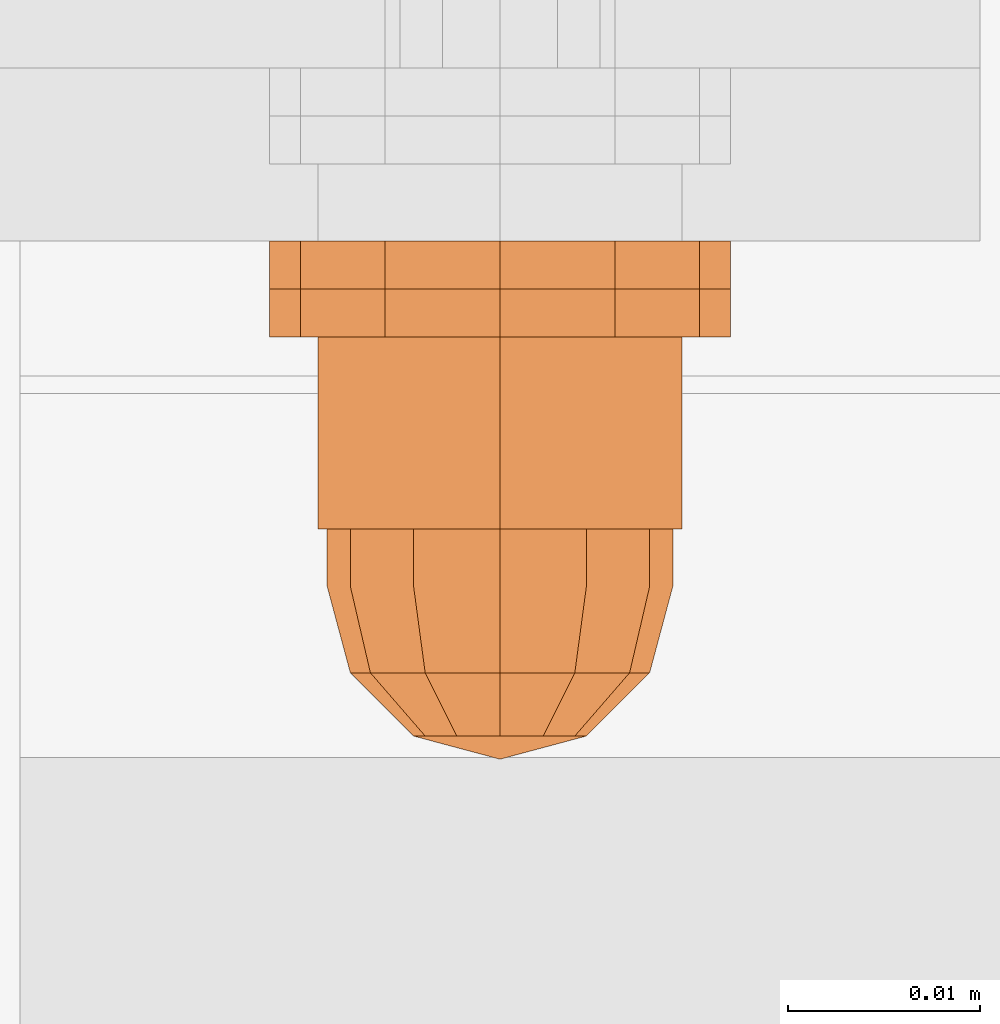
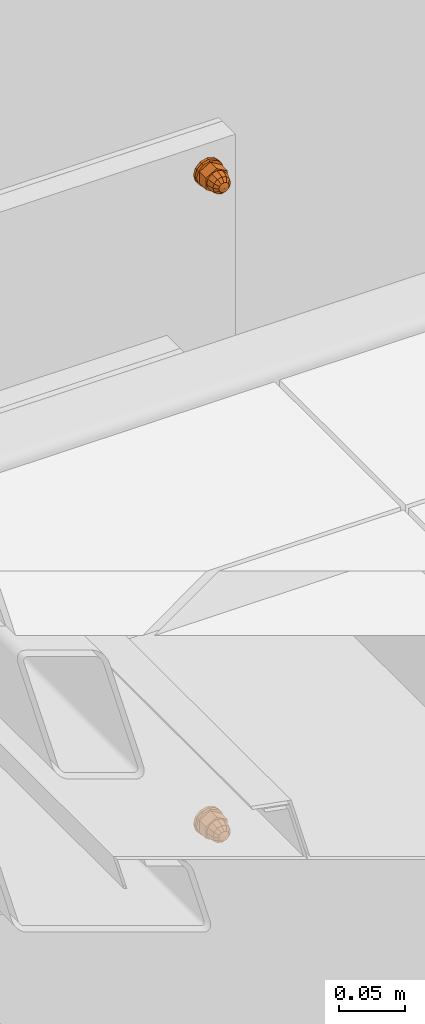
# One storey, part 141 of 162: 6 proxies.
"""IFC2X3 building model written with IfcOpenShell, lengths in millimetres."""

import ifcopenshell
import ifcopenshell.guid

model = None  # the IFC model being written
_history = None  # IfcOwnerHistory: only IFC2X3 demands one
_inside = {}  # id of a spatial element -> (the spatial element, [elements in it])
_under = {}  # id of a project, library or spatial element -> (it, [spatial elements below it])
_declared = {}  # id of a project -> (the project, [libraries it declares])
_typed = {}  # id of a type object -> (the type object, [elements of that type])
_made_of = {}  # id of a material, layer set ... -> (it, [elements and type objects made of it])


def new_model(schema):
    """Start an empty IFC model of exactly this schema.

    Asked for "IFC4X3", IfcOpenShell would pick the latest addendum, in which some entities
    have other attributes; the version numbers below select the first issue.
    IFC2X3 requires an IfcOwnerHistory on every rooted entity: one is made here for all.
    """
    global model, _history
    if schema == "IFC4X3":
        model = ifcopenshell.file(schema_version=(4, 3, 0, 0))
    else:
        model = ifcopenshell.file(schema=schema)
    _inside.clear()
    _under.clear()
    _declared.clear()
    _typed.clear()
    _made_of.clear()
    _history = None
    if model.schema == "IFC2X3":
        org = make("IfcOrganization", Name="unknown")
        user = make(
            "IfcPersonAndOrganization",
            ThePerson=make("IfcPerson", FamilyName="unknown"),
            TheOrganization=org,
        )
        app = make(
            "IfcApplication",
            ApplicationDeveloper=org,
            Version="unknown",
            ApplicationFullName="unknown",
            ApplicationIdentifier="unknown",
        )
        _history = make(
            "IfcOwnerHistory",
            OwningUser=user,
            OwningApplication=app,
            ChangeAction="ADDED",
            CreationDate=0,
        )
    return model


def make(cls, **values):
    """One entity of the class cls with the attributes given. An attribute that is None is left unset."""
    return model.create_entity(
        cls, **{name: value for name, value in values.items() if value is not None}
    )


def entity(cls, *values):
    """Any entity or typed value of the class cls, its attributes in the order of the schema. None: left unset."""
    e = model.create_entity(cls)
    for i, value in enumerate(values):
        if value is not None:
            e[i] = value
    return e


def rooted(cls, **values):
    """An entity with a GlobalId (a new one), such as an element, a storey or a relation."""
    return make(cls, GlobalId=ifcopenshell.guid.new(), OwnerHistory=_history, **values)


def si_unit(unit_type, name, prefix=None):
    """IfcSIUnit, for example si_unit("LENGTHUNIT", "METRE", prefix="MILLI")."""
    return make("IfcSIUnit", UnitType=unit_type, Prefix=prefix, Name=name)


def converted_unit(unit_type, name, factor, base, dimensions=None, offset=None):
    """IfcConversionBasedUnit, such as the inch: factor (a typed value) times the base unit."""
    return make(
        "IfcConversionBasedUnit"
        if offset is None
        else "IfcConversionBasedUnitWithOffset",
        ConversionOffset=offset,
        Dimensions=None
        if dimensions is None
        else entity("IfcDimensionalExponents", *dimensions),
        UnitType=unit_type,
        Name=name,
        ConversionFactor=make(
            "IfcMeasureWithUnit", ValueComponent=factor, UnitComponent=base
        ),
    )


def assignment(units):
    """IfcUnitAssignment: the units of a project."""
    return None if units is None else make("IfcUnitAssignment", Units=units)


def point(xyz):
    """IfcCartesianPoint."""
    return None if xyz is None else make("IfcCartesianPoint", Coordinates=xyz)


def direction(xyz):
    """IfcDirection."""
    return None if xyz is None else make("IfcDirection", DirectionRatios=xyz)


def frame(location, z_axis=None, x_axis=None):
    """IfcAxis2Placement3D, a coordinate frame: its origin and axes. An axis left out is left unset."""
    return make(
        "IfcAxis2Placement3D",
        Location=point(location),
        Axis=direction(z_axis),
        RefDirection=direction(x_axis),
    )


def origin_with_axes():
    """The frame at (0, 0, 0) with the z axis (0, 0, 1) and the x axis (1, 0, 0) written out."""
    return frame((0.0, 0.0, 0.0), z_axis=(0.0, 0.0, 1.0), x_axis=(1.0, 0.0, 0.0))


def place(relative_to, where):
    """IfcLocalPlacement: puts the frame where relative to a parent placement (None: the world)."""
    return make(
        "IfcLocalPlacement", PlacementRelTo=relative_to, RelativePlacement=where
    )


def context(
    kind, dimensions, precision=None, world=None, true_north=None, identifier=None
):
    """IfcGeometricRepresentationContext, for example the 3D "Model" context."""
    return make(
        "IfcGeometricRepresentationContext",
        ContextIdentifier=identifier,
        ContextType=kind,
        CoordinateSpaceDimension=dimensions,
        Precision=precision,
        WorldCoordinateSystem=world,
        TrueNorth=true_north,
    )


def project(units=None, contexts=None):
    """IfcProject with its units and contexts."""
    return rooted(
        "IfcProject",
        Name="project",
        RepresentationContexts=contexts,
        UnitsInContext=assignment(units),
    )


def spatial(cls, under=None, at=None, **own):
    """A site, building, storey or space (cls), placed at a placement, below another one or the project."""
    s = rooted(cls, ObjectPlacement=at, **own)
    if under is not None:
        _under.setdefault(under.id(), (under, []))[1].append(s)
    return s


def faces_of(points, faces, orient=None, outer=None):
    """IfcFace entities. A face is a list of loops; a loop is a list of indices into points, from 0.

    orient and outer hold one flag for each loop. By default every Orientation is true, the
    first loop of a face is its IfcFaceOuterBound and the others are IfcFaceBound.
    """
    made = []
    for i, loops in enumerate(faces):
        bounds = []
        for j, loop in enumerate(loops):
            is_outer = j == 0 if outer is None else outer[i][j]
            bounds.append(
                make(
                    "IfcFaceOuterBound" if is_outer else "IfcFaceBound",
                    Bound=make("IfcPolyLoop", Polygon=[points[k] for k in loop]),
                    Orientation=True if orient is None else orient[i][j],
                )
            )
        made.append(make("IfcFace", Bounds=bounds))
    return made


def faceted_brep(points, faces, orient=None, outer=None, voids=None):
    """IfcFacetedBrep: a solid bounded by flat faces; with voids (closed shells), ...WithVoids."""
    shared = [point(p) for p in points]
    hull = make("IfcClosedShell", CfsFaces=faces_of(shared, faces, orient, outer))
    if voids is None:
        return make("IfcFacetedBrep", Outer=hull)
    return make(
        "IfcFacetedBrepWithVoids",
        Outer=hull,
        Voids=[
            make(cls, CfsFaces=faces_of(shared, fs, o, b)) for cls, fs, o, b in voids
        ],
    )


def shape(context_of_items, identifier, shape_type, items):
    """IfcShapeRepresentation: the items that make up one representation, for example the "Body"."""
    return make(
        "IfcShapeRepresentation",
        ContextOfItems=context_of_items,
        RepresentationIdentifier=identifier,
        RepresentationType=shape_type,
        Items=items,
    )


def material(Name=None, Category=None):
    """IfcMaterial."""
    return make("IfcMaterial", Name=Name, Category=Category)


def made_of(thing, what):
    """Note that an element or type object is made of a material, layer set ...; save() writes the relation."""
    if what is not None:
        _made_of.setdefault(what.id(), (what, []))[1].append(thing)
    return thing


def element(
    cls,
    number,
    at=None,
    inside=None,
    cuts=None,
    type_object=None,
    material=None,
    context=None,
    identifier="Body",
    shape_type=None,
    held_by="IfcProductDefinitionShape",
    body=None,
    shapes=None,
    **own,
):
    """One element of the class cls, such as IfcWall. Its Tag is "e" and its number.

    at: its placement. inside: the storey or other place that contains it. cuts: it is an
    opening in that element (IfcRelVoidsElement). A single representation is given by context,
    identifier, shape_type and body (its items); several are given by shapes. held_by: the class
    of the entity that holds the representations. save() writes the other relations.
    """
    e = rooted(cls, Tag="e%d" % number, ObjectPlacement=at, **own)
    if body is not None:
        shapes = [shape(context, identifier, shape_type, body)]
    if shapes is not None:
        e.Representation = make(held_by, Representations=shapes)
    if inside is not None:
        _inside.setdefault(inside.id(), (inside, []))[1].append(e)
    if cuts is not None:
        rooted(
            "IfcRelVoidsElement", RelatingBuildingElement=cuts, RelatedOpeningElement=e
        )
    if type_object is not None:
        _typed.setdefault(type_object.id(), (type_object, []))[1].append(e)
    return made_of(e, material)


def aggregate(whole, parts):
    """IfcRelAggregates: a whole, such as a stair, and the parts it consists of."""
    return rooted("IfcRelAggregates", RelatingObject=whole, RelatedObjects=parts)


def save(model, path):
    """Write the relations noted so far, then the file.

    IfcRelAggregates (storeys below a building ...), IfcRelContainedInSpatialStructure (elements
    in a storey), IfcRelDefinesByType, IfcRelAssociatesMaterial and IfcRelDeclares: one each for
    every whole, place, type object, material and project.
    """
    for whole, parts in _under.values():
        aggregate(whole, parts)
    for where, things in _inside.values():
        rooted(
            "IfcRelContainedInSpatialStructure",
            RelatedElements=things,
            RelatingStructure=where,
        )
    for kind, things in _typed.values():
        rooted("IfcRelDefinesByType", RelatedObjects=things, RelatingType=kind)
    for what, things in _made_of.values():
        rooted("IfcRelAssociatesMaterial", RelatedObjects=things, RelatingMaterial=what)
    for by, libraries in _declared.values():
        rooted("IfcRelDeclares", RelatingContext=by, RelatedDefinitions=libraries)
    model.write(path)


model = new_model("IFC2X3")

# Units and contexts
model_context = context("Model", 3, precision=1e-09, world=origin_with_axes())
ifc_project = project(units=[si_unit("LENGTHUNIT", "METRE", prefix="MILLI"), si_unit("AREAUNIT", "SQUARE_METRE"), si_unit("VOLUMEUNIT", "CUBIC_METRE"), converted_unit("PLANEANGLEUNIT", "DEGREE", entity("IfcPlaneAngleMeasure", 0.01745329), si_unit("PLANEANGLEUNIT", "RADIAN"), dimensions=[0, 0, 0, 0, 0, 0, 0])], contexts=[model_context])

# Site, building, storey
site_placement = place(None, origin_with_axes())
site = spatial("IfcSite", under=ifc_project, at=site_placement, Name="Hermannstra?e 1a, 60318 Frankfurt", CompositionType="ELEMENT")
building_placement = place(site_placement, origin_with_axes())
building = spatial("IfcBuilding", under=site, at=building_placement, Name="Struktur 1", CompositionType="ELEMENT")
storey_placement = place(building_placement, origin_with_axes())
storey = spatial("IfcBuildingStorey", under=building, at=storey_placement, Name="Default Storey", CompositionType="ELEMENT", Elevation=0.0)

# Proxies
ifc_material_1 = material(Name="Kunststoff")
proxy_1_placement = place(None, origin_with_axes())
element("IfcBuildingElementProxy", 1, at=proxy_1_placement, inside=storey, material=ifc_material_1, ObjectType="-", context=model_context, shape_type="Brep", body=[
    faceted_brep([(2938.702376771, 2708.110081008, 15355.999), (2938.702376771, 2710.610081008, 15355.999), (2940.310071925, 2710.610081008, 15361.999), (2940.310071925, 2708.110081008, 15361.999), (2934.310071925, 2710.610081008, 15351.606695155), (2928.310071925, 2710.610081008, 15349.999), (2922.310071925, 2710.610081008, 15351.606695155), (2917.91776708, 2710.610081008, 15355.999), (2916.310071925, 2710.610081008, 15361.999), (2917.91776708, 2710.610081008, 15367.999), (2922.310071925, 2710.610081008, 15372.391304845), (2928.310071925, 2710.610081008, 15373.999), (2934.310071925, 2710.610081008, 15372.391304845), (2938.702376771, 2710.610081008, 15367.999), (2931.560071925, 2710.610081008, 15356.369834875), (2933.93923705, 2710.610081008, 15358.749), (2934.810071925, 2710.610081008, 15361.999), (2933.93923705, 2710.610081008, 15365.249), (2931.560071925, 2710.610081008, 15367.628165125), (2928.310071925, 2710.610081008, 15368.499), (2925.060071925, 2710.610081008, 15367.628165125), (2922.680906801, 2710.610081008, 15365.249), (2921.810071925, 2710.610081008, 15361.999), (2922.680906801, 2710.610081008, 15358.749), (2925.060071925, 2710.610081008, 15356.369834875), (2928.310071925, 2710.610081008, 15355.499), (2934.810071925, 2708.110081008, 15361.999), (2933.93923705, 2708.110081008, 15358.749), (2934.310071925, 2708.110081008, 15351.606695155), (2938.702376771, 2708.110081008, 15367.999), (2934.310071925, 2708.110081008, 15372.391304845), (2928.310071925, 2708.110081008, 15373.999), (2922.310071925, 2708.110081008, 15372.391304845), (2917.91776708, 2708.110081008, 15367.999), (2916.310071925, 2708.110081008, 15361.999), (2917.91776708, 2708.110081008, 15355.999), (2922.310071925, 2708.110081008, 15351.606695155), (2928.310071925, 2708.110081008, 15349.999), (2931.560071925, 2708.110081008, 15356.369834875), (2928.310071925, 2708.110081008, 15355.499), (2925.060071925, 2708.110081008, 15356.369834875), (2922.680906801, 2708.110081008, 15358.749), (2921.810071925, 2708.110081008, 15361.999), (2922.680906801, 2708.110081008, 15365.249), (2925.060071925, 2708.110081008, 15367.628165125), (2928.310071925, 2708.110081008, 15368.499), (2931.560071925, 2708.110081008, 15367.628165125), (2933.93923705, 2708.110081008, 15365.249)], [[[0, 1, 2, 3]], [[1, 4, 5, 6, 7, 8, 9, 10, 11, 12, 13, 2], [14, 15, 16, 17, 18, 19, 20, 21, 22, 23, 24, 25]], [[26, 16, 15, 27]], [[28, 0, 3, 29, 30, 31, 32, 33, 34, 35, 36, 37], [26, 27, 38, 39, 40, 41, 42, 43, 44, 45, 46, 47]], [[1, 0, 28, 4]], [[16, 26, 47, 17]], [[3, 2, 13, 29]], [[27, 15, 14, 38]], [[4, 28, 37, 5]], [[17, 47, 46, 18]], [[29, 13, 12, 30]], [[38, 14, 25, 39]], [[18, 46, 45, 19]], [[5, 37, 36, 6]], [[39, 25, 24, 40]], [[30, 12, 11, 31]], [[19, 45, 44, 20]], [[6, 36, 35, 7]], [[40, 24, 23, 41]], [[31, 11, 10, 32]], [[20, 44, 43, 21]], [[7, 35, 34, 8]], [[41, 23, 22, 42]], [[32, 10, 9, 33]], [[21, 43, 42, 22]], [[8, 34, 33, 9]]]),
])
ifc_material_2 = material(Name="A4")
proxy_2_placement = place(None, origin_with_axes())
element("IfcBuildingElementProxy", 2, at=proxy_2_placement, inside=storey, material=ifc_material_2, ObjectType="-", context=model_context, shape_type="Brep", body=[
    faceted_brep([(2917.91776708, 2705.610081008, 15355.999), (2917.91776708, 2708.110081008, 15355.999), (2922.310071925, 2708.110081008, 15351.606695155), (2922.310071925, 2705.610081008, 15351.606695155), (2928.310071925, 2705.610081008, 15349.999), (2934.310071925, 2705.610081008, 15351.606695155), (2938.702376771, 2705.610081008, 15355.999), (2940.310071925, 2705.610081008, 15361.999), (2938.702376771, 2705.610081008, 15367.999), (2934.310071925, 2705.610081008, 15372.391304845), (2928.310071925, 2705.610081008, 15373.999), (2922.310071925, 2705.610081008, 15372.391304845), (2917.91776708, 2705.610081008, 15367.999), (2916.310071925, 2705.610081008, 15361.999), (2931.560071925, 2705.610081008, 15356.369834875), (2928.310071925, 2705.610081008, 15355.499), (2925.060071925, 2705.610081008, 15356.369834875), (2922.680906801, 2705.610081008, 15358.749), (2921.810071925, 2705.610081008, 15361.999), (2922.680906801, 2705.610081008, 15365.249), (2925.060071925, 2705.610081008, 15367.628165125), (2928.310071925, 2705.610081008, 15368.499), (2931.560071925, 2705.610081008, 15367.628165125), (2933.93923705, 2705.610081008, 15365.249), (2934.810071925, 2705.610081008, 15361.999), (2933.93923705, 2705.610081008, 15358.749), (2916.310071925, 2708.110081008, 15361.999), (2917.91776708, 2708.110081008, 15367.999), (2922.310071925, 2708.110081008, 15372.391304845), (2928.310071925, 2708.110081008, 15373.999), (2934.310071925, 2708.110081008, 15372.391304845), (2938.702376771, 2708.110081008, 15367.999), (2940.310071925, 2708.110081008, 15361.999), (2938.702376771, 2708.110081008, 15355.999), (2934.310071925, 2708.110081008, 15351.606695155), (2928.310071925, 2708.110081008, 15349.999), (2921.810071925, 2708.110081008, 15361.999), (2922.680906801, 2708.110081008, 15358.749), (2925.060071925, 2708.110081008, 15356.369834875), (2928.310071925, 2708.110081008, 15355.499), (2931.560071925, 2708.110081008, 15356.369834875), (2933.93923705, 2708.110081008, 15358.749), (2934.810071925, 2708.110081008, 15361.999), (2933.93923705, 2708.110081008, 15365.249), (2931.560071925, 2708.110081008, 15367.628165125), (2928.310071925, 2708.110081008, 15368.499), (2925.060071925, 2708.110081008, 15367.628165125), (2922.680906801, 2708.110081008, 15365.249)], [[[0, 1, 2, 3]], [[3, 4, 5, 6, 7, 8, 9, 10, 11, 12, 13, 0], [14, 15, 16, 17, 18, 19, 20, 21, 22, 23, 24, 25]], [[1, 26, 27, 28, 29, 30, 31, 32, 33, 34, 35, 2], [36, 37, 38, 39, 40, 41, 42, 43, 44, 45, 46, 47]], [[37, 17, 16, 38]], [[1, 0, 13, 26]], [[17, 37, 36, 18]], [[38, 16, 15, 39]], [[3, 2, 35, 4]], [[26, 13, 12, 27]], [[18, 36, 47, 19]], [[39, 15, 14, 40]], [[4, 35, 34, 5]], [[27, 12, 11, 28]], [[19, 47, 46, 20]], [[40, 14, 25, 41]], [[5, 34, 33, 6]], [[24, 42, 41, 25]], [[28, 11, 10, 29]], [[20, 46, 45, 21]], [[23, 43, 42, 24]], [[6, 33, 32, 7]], [[44, 22, 21, 45]], [[43, 23, 22, 44]], [[29, 10, 9, 30]], [[7, 32, 31, 8]], [[30, 9, 8, 31]]]),
])
proxy_3_placement = place(None, origin_with_axes())
element("IfcBuildingElementProxy", 3, at=proxy_3_placement, inside=storey, material=ifc_material_2, ObjectType="-", context=model_context, shape_type="Brep", body=[
    faceted_brep([(2934.310071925, 2705.610081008, 15361.999), (2934.310071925, 2695.610081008, 15361.999), (2933.506224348, 2695.610081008, 15364.999), (2933.506224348, 2705.610081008, 15364.999), (2931.310071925, 2695.610081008, 15367.195152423), (2931.310071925, 2705.610081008, 15367.195152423), (2933.506224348, 2705.610081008, 15358.999), (2933.506224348, 2695.610081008, 15358.999), (2937.789941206, 2705.610081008, 15356.525794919), (2928.310071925, 2705.610081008, 15351.052589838), (2918.830202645, 2705.610081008, 15356.525794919), (2918.830202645, 2705.610081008, 15367.472205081), (2928.310071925, 2705.610081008, 15372.945410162), (2937.789941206, 2705.610081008, 15367.472205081), (2931.310071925, 2705.610081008, 15356.802847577), (2928.310071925, 2705.610081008, 15367.999), (2925.310071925, 2705.610081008, 15367.195152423), (2923.113919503, 2705.610081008, 15364.999), (2922.310071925, 2705.610081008, 15361.999), (2923.113919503, 2705.610081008, 15358.999), (2925.310071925, 2705.610081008, 15356.802847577), (2928.310071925, 2705.610081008, 15355.999), (2928.310071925, 2695.610081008, 15351.052589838), (2937.789941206, 2695.610081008, 15356.525794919), (2937.789941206, 2695.610081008, 15367.472205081), (2928.310071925, 2695.610081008, 15372.945410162), (2918.830202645, 2695.610081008, 15367.472205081), (2918.830202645, 2695.610081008, 15356.525794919), (2931.310071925, 2695.610081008, 15356.802847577), (2928.310071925, 2695.610081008, 15355.999), (2925.310071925, 2695.610081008, 15356.802847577), (2923.113919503, 2695.610081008, 15358.999), (2922.310071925, 2695.610081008, 15361.999), (2923.113919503, 2695.610081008, 15364.999), (2925.310071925, 2695.610081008, 15367.195152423), (2928.310071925, 2695.610081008, 15367.999)], [[[0, 1, 2, 3]], [[3, 2, 4, 5]], [[1, 0, 6, 7]], [[8, 9, 10, 11, 12, 13], [14, 6, 0, 3, 5, 15, 16, 17, 18, 19, 20, 21]], [[22, 23, 24, 25, 26, 27], [1, 7, 28, 29, 30, 31, 32, 33, 34, 35, 4, 2]], [[7, 6, 14, 28]], [[24, 23, 8, 13]], [[5, 4, 35, 15]], [[13, 12, 25, 24]], [[28, 14, 21, 29]], [[23, 22, 9, 8]], [[15, 35, 34, 16]], [[12, 11, 26, 25]], [[29, 21, 20, 30]], [[22, 27, 10, 9]], [[16, 34, 33, 17]], [[27, 26, 11, 10]], [[30, 20, 19, 31]], [[17, 33, 32, 18]], [[31, 19, 18, 32]]]),
    faceted_brep([(2928.310071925, 2695.610081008, 15352.999), (2928.310071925, 2692.610081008, 15352.999), (2923.810071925, 2692.610081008, 15354.204771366), (2923.810071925, 2695.610081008, 15354.204771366), (2932.810071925, 2695.610081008, 15354.204771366), (2932.810071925, 2692.610081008, 15354.204771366), (2936.104300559, 2692.610081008, 15366.499), (2932.810071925, 2692.610081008, 15369.793228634), (2928.310071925, 2692.610081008, 15370.999), (2923.810071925, 2692.610081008, 15369.793228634), (2920.515843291, 2692.610081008, 15366.499), (2919.310071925, 2692.610081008, 15361.999), (2920.515843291, 2692.610081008, 15357.499), (2936.104300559, 2692.610081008, 15357.499), (2937.310071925, 2692.610081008, 15361.999), (2920.515843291, 2695.610081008, 15366.499), (2923.810071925, 2695.610081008, 15369.793228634), (2928.310071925, 2695.610081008, 15370.999), (2932.810071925, 2695.610081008, 15369.793228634), (2936.104300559, 2695.610081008, 15366.499), (2937.310071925, 2695.610081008, 15361.999), (2936.104300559, 2695.610081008, 15357.499), (2920.515843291, 2695.610081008, 15357.499), (2919.310071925, 2695.610081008, 15361.999)], [[[0, 1, 2, 3]], [[1, 0, 4, 5]], [[6, 7, 8, 9, 10, 11, 12, 2, 1, 5, 13, 14]], [[15, 16, 17, 18, 19, 20, 21, 4, 0, 3, 22, 23]], [[3, 2, 12, 22]], [[5, 4, 21, 13]], [[22, 12, 11, 23]], [[13, 21, 20, 14]], [[7, 18, 17, 8]], [[19, 6, 14, 20]], [[18, 7, 6, 19]], [[23, 11, 10, 15]], [[8, 17, 16, 9]], [[15, 10, 9, 16]]]),
    faceted_brep([(2936.104300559, 2692.610081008, 15357.499), (2935.060071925, 2688.110081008, 15358.101885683), (2932.207186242, 2688.110081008, 15355.249), (2932.810071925, 2692.610081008, 15354.204771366), (2920.515843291, 2692.610081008, 15366.499), (2923.810071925, 2692.610081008, 15369.793228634), (2928.310071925, 2692.610081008, 15370.999), (2932.810071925, 2692.610081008, 15369.793228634), (2936.104300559, 2692.610081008, 15366.499), (2937.310071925, 2692.610081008, 15361.999), (2928.310071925, 2692.610081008, 15352.999), (2923.810071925, 2692.610081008, 15354.204771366), (2920.515843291, 2692.610081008, 15357.499), (2919.310071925, 2692.610081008, 15361.999), (2928.310071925, 2688.110081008, 15354.204771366), (2936.104300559, 2688.110081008, 15361.999), (2932.810071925, 2684.815852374, 15361.999), (2932.207186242, 2684.815852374, 15359.749), (2924.412957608, 2688.110081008, 15355.249), (2930.560071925, 2684.815852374, 15358.101885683), (2935.060071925, 2688.110081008, 15365.896114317), (2932.207186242, 2684.815852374, 15364.249), (2928.310071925, 2684.815852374, 15357.499), (2928.310071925, 2683.610081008, 15361.999), (2932.207186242, 2688.110081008, 15368.749), (2930.560071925, 2684.815852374, 15365.896114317), (2928.310071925, 2688.110081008, 15369.793228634), (2921.560071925, 2688.110081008, 15358.101885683), (2926.060071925, 2684.815852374, 15358.101885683), (2928.310071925, 2684.815852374, 15366.499), (2924.412957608, 2688.110081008, 15368.749), (2926.060071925, 2684.815852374, 15365.896114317), (2920.515843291, 2688.110081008, 15361.999), (2924.412957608, 2684.815852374, 15359.749), (2921.560071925, 2688.110081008, 15365.896114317), (2924.412957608, 2684.815852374, 15364.249), (2923.810071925, 2684.815852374, 15361.999)], [[[0, 1, 2, 3]], [[4, 5, 6, 7, 8, 9, 0, 3, 10, 11, 12, 13]], [[3, 2, 14, 10]], [[15, 16, 17, 1]], [[1, 0, 9, 15]], [[10, 14, 18, 11]], [[1, 17, 19, 2]], [[16, 15, 20, 21]], [[2, 19, 22, 14]], [[23, 17, 16]], [[24, 25, 21, 20]], [[23, 16, 21]], [[24, 7, 6, 26]], [[20, 8, 7, 24]], [[15, 9, 8, 20]], [[11, 18, 27, 12]], [[14, 22, 28, 18]], [[23, 19, 17]], [[26, 29, 25, 24]], [[23, 21, 25]], [[23, 22, 19]], [[26, 6, 5, 30]], [[29, 26, 30, 31]], [[23, 25, 29]], [[12, 27, 32, 13]], [[18, 28, 33, 27]], [[23, 28, 22]], [[23, 29, 31]], [[23, 33, 28]], [[30, 5, 4, 34]], [[31, 30, 34, 35]], [[23, 31, 35]], [[13, 32, 34, 4]], [[27, 33, 36, 32]], [[23, 36, 33]], [[23, 35, 36]], [[35, 34, 32, 36]]]),
])
proxy_4_placement = place(None, origin_with_axes())
element("IfcBuildingElementProxy", 4, at=proxy_4_placement, inside=storey, material=ifc_material_2, ObjectType="-", context=model_context, shape_type="Brep", body=[
    faceted_brep([(2934.310071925, 2695.610081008, 14761.999), (2934.310071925, 2705.610081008, 14761.999), (2933.506224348, 2705.610081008, 14758.999), (2933.506224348, 2695.610081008, 14758.999), (2931.310071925, 2705.610081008, 14756.802847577), (2931.310071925, 2695.610081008, 14756.802847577), (2933.506224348, 2695.610081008, 14764.999), (2933.506224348, 2705.610081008, 14764.999), (2937.789941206, 2705.610081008, 14767.472205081), (2937.789941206, 2705.610081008, 14756.525794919), (2928.310071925, 2705.610081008, 14751.052589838), (2918.830202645, 2705.610081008, 14756.525794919), (2918.830202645, 2705.610081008, 14767.472205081), (2928.310071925, 2705.610081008, 14772.945410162), (2931.310071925, 2705.610081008, 14767.195152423), (2928.310071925, 2705.610081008, 14767.999), (2925.310071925, 2705.610081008, 14767.195152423), (2923.113919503, 2705.610081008, 14764.999), (2922.310071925, 2705.610081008, 14761.999), (2923.113919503, 2705.610081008, 14758.999), (2925.310071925, 2705.610081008, 14756.802847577), (2928.310071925, 2705.610081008, 14755.999), (2937.789941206, 2695.610081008, 14767.472205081), (2928.310071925, 2695.610081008, 14772.945410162), (2918.830202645, 2695.610081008, 14767.472205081), (2918.830202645, 2695.610081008, 14756.525794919), (2928.310071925, 2695.610081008, 14751.052589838), (2937.789941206, 2695.610081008, 14756.525794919), (2931.310071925, 2695.610081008, 14767.195152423), (2928.310071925, 2695.610081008, 14755.999), (2928.310071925, 2695.610081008, 14767.999), (2925.310071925, 2695.610081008, 14756.802847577), (2925.310071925, 2695.610081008, 14767.195152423), (2923.113919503, 2695.610081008, 14758.999), (2923.113919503, 2695.610081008, 14764.999), (2922.310071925, 2695.610081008, 14761.999)], [[[0, 1, 2, 3]], [[3, 2, 4, 5]], [[1, 0, 6, 7]], [[8, 9, 10, 11, 12, 13], [7, 14, 15, 16, 17, 18, 19, 20, 21, 4, 2, 1]], [[22, 23, 24, 25, 26, 27]], [[7, 6, 28, 14]], [[22, 27, 9, 8]], [[5, 4, 21, 29]], [[10, 9, 27, 26]], [[14, 28, 30, 15]], [[23, 22, 8, 13]], [[29, 21, 20, 31]], [[11, 10, 26, 25]], [[15, 30, 32, 16]], [[24, 23, 13, 12]], [[31, 20, 19, 33]], [[25, 24, 12, 11]], [[16, 32, 34, 17]], [[33, 19, 18, 35]], [[17, 34, 35, 18]]]),
    faceted_brep([(2928.310071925, 2692.610081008, 14770.999), (2928.310071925, 2695.610081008, 14770.999), (2923.810071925, 2695.610081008, 14769.793228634), (2923.810071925, 2692.610081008, 14769.793228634), (2932.810071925, 2692.610081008, 14769.793228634), (2932.810071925, 2695.610081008, 14769.793228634), (2932.810071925, 2692.610081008, 14754.204771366), (2936.104300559, 2692.610081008, 14757.499), (2937.310071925, 2692.610081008, 14761.999), (2936.104300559, 2692.610081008, 14766.499), (2920.515843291, 2692.610081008, 14766.499), (2919.310071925, 2692.610081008, 14761.999), (2920.515843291, 2692.610081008, 14757.499), (2923.810071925, 2692.610081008, 14754.204771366), (2928.310071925, 2692.610081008, 14752.999), (2923.810071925, 2695.610081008, 14754.204771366), (2920.515843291, 2695.610081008, 14757.499), (2919.310071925, 2695.610081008, 14761.999), (2920.515843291, 2695.610081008, 14766.499), (2936.104300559, 2695.610081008, 14766.499), (2937.310071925, 2695.610081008, 14761.999), (2936.104300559, 2695.610081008, 14757.499), (2932.810071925, 2695.610081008, 14754.204771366), (2928.310071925, 2695.610081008, 14752.999)], [[[0, 1, 2, 3]], [[1, 0, 4, 5]], [[6, 7, 8, 9, 4, 0, 3, 10, 11, 12, 13, 14]], [[15, 16, 17, 18, 2, 1, 5, 19, 20, 21, 22, 23]], [[3, 2, 18, 10]], [[5, 4, 9, 19]], [[10, 18, 17, 11]], [[19, 9, 8, 20]], [[22, 6, 14, 23]], [[7, 21, 20, 8]], [[6, 22, 21, 7]], [[11, 17, 16, 12]], [[23, 14, 13, 15]], [[12, 16, 15, 13]]]),
    faceted_brep([(2935.060071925, 2688.110081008, 14765.896114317), (2936.104300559, 2692.610081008, 14766.499), (2932.810071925, 2692.610081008, 14769.793228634), (2932.207186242, 2688.110081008, 14768.749), (2923.810071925, 2692.610081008, 14754.204771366), (2920.515843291, 2692.610081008, 14757.499), (2919.310071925, 2692.610081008, 14761.999), (2920.515843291, 2692.610081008, 14766.499), (2923.810071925, 2692.610081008, 14769.793228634), (2928.310071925, 2692.610081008, 14770.999), (2937.310071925, 2692.610081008, 14761.999), (2936.104300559, 2692.610081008, 14757.499), (2932.810071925, 2692.610081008, 14754.204771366), (2928.310071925, 2692.610081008, 14752.999), (2928.310071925, 2688.110081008, 14769.793228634), (2932.810071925, 2684.815852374, 14761.999), (2936.104300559, 2688.110081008, 14761.999), (2932.207186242, 2684.815852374, 14764.249), (2924.412957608, 2688.110081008, 14768.749), (2930.560071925, 2684.815852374, 14765.896114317), (2932.207186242, 2684.815852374, 14759.749), (2935.060071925, 2688.110081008, 14758.101885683), (2928.310071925, 2684.815852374, 14766.499), (2928.310071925, 2683.610081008, 14761.999), (2930.560071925, 2684.815852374, 14758.101885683), (2932.207186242, 2688.110081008, 14755.249), (2928.310071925, 2688.110081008, 14754.204771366), (2921.560071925, 2688.110081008, 14765.896114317), (2926.060071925, 2684.815852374, 14765.896114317), (2928.310071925, 2684.815852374, 14757.499), (2924.412957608, 2688.110081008, 14755.249), (2926.060071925, 2684.815852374, 14758.101885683), (2920.515843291, 2688.110081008, 14761.999), (2924.412957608, 2684.815852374, 14764.249), (2921.560071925, 2688.110081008, 14758.101885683), (2924.412957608, 2684.815852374, 14759.749), (2923.810071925, 2684.815852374, 14761.999)], [[[0, 1, 2, 3]], [[4, 5, 6, 7, 8, 9, 2, 1, 10, 11, 12, 13]], [[3, 2, 9, 14]], [[15, 16, 0, 17]], [[1, 0, 16, 10]], [[14, 9, 8, 18]], [[17, 0, 3, 19]], [[16, 15, 20, 21]], [[19, 3, 14, 22]], [[17, 23, 15]], [[24, 25, 21, 20]], [[15, 23, 20]], [[12, 25, 26, 13]], [[11, 21, 25, 12]], [[10, 16, 21, 11]], [[18, 8, 7, 27]], [[22, 14, 18, 28]], [[19, 23, 17]], [[29, 26, 25, 24]], [[20, 23, 24]], [[22, 23, 19]], [[13, 26, 30, 4]], [[26, 29, 31, 30]], [[24, 23, 29]], [[27, 7, 6, 32]], [[28, 18, 27, 33]], [[28, 23, 22]], [[29, 23, 31]], [[33, 23, 28]], [[4, 30, 34, 5]], [[30, 31, 35, 34]], [[31, 23, 35]], [[32, 6, 5, 34]], [[33, 27, 32, 36]], [[36, 23, 33]], [[35, 23, 36]], [[34, 35, 36, 32]]]),
])
proxy_5_placement = place(None, origin_with_axes())
element("IfcBuildingElementProxy", 5, at=proxy_5_placement, inside=storey, material=ifc_material_2, ObjectType="-", context=model_context, shape_type="Brep", body=[
    faceted_brep([(2917.91776708, 2708.110081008, 14767.999), (2917.91776708, 2705.610081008, 14767.999), (2922.310071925, 2705.610081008, 14772.391304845), (2922.310071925, 2708.110081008, 14772.391304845), (2916.310071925, 2705.610081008, 14761.999), (2917.91776708, 2705.610081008, 14755.999), (2922.310071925, 2705.610081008, 14751.606695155), (2928.310071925, 2705.610081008, 14749.999), (2934.310071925, 2705.610081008, 14751.606695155), (2938.702376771, 2705.610081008, 14755.999), (2940.310071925, 2705.610081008, 14761.999), (2938.702376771, 2705.610081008, 14767.999), (2934.310071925, 2705.610081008, 14772.391304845), (2928.310071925, 2705.610081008, 14773.999), (2928.310071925, 2705.610081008, 14768.499), (2931.560071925, 2705.610081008, 14767.628165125), (2933.93923705, 2705.610081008, 14765.249), (2934.810071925, 2705.610081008, 14761.999), (2933.93923705, 2705.610081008, 14758.749), (2931.560071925, 2705.610081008, 14756.369834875), (2928.310071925, 2705.610081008, 14755.499), (2925.060071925, 2705.610081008, 14756.369834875), (2922.680906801, 2705.610081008, 14758.749), (2921.810071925, 2705.610081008, 14761.999), (2922.680906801, 2705.610081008, 14765.249), (2925.060071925, 2705.610081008, 14767.628165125), (2922.680906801, 2708.110081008, 14765.249), (2921.810071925, 2708.110081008, 14761.999), (2922.680906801, 2708.110081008, 14758.749), (2925.060071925, 2708.110081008, 14756.369834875), (2928.310071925, 2708.110081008, 14755.499), (2931.560071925, 2708.110081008, 14756.369834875), (2933.93923705, 2708.110081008, 14758.749), (2934.810071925, 2708.110081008, 14761.999), (2933.93923705, 2708.110081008, 14765.249), (2931.560071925, 2708.110081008, 14767.628165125), (2928.310071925, 2708.110081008, 14768.499), (2925.060071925, 2708.110081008, 14767.628165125), (2916.310071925, 2708.110081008, 14761.999), (2928.310071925, 2708.110081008, 14773.999), (2917.91776708, 2708.110081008, 14755.999), (2934.310071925, 2708.110081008, 14772.391304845), (2922.310071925, 2708.110081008, 14751.606695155), (2938.702376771, 2708.110081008, 14767.999), (2928.310071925, 2708.110081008, 14749.999), (2940.310071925, 2708.110081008, 14761.999), (2934.310071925, 2708.110081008, 14751.606695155), (2938.702376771, 2708.110081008, 14755.999)], [[[0, 1, 2, 3]], [[2, 1, 4, 5, 6, 7, 8, 9, 10, 11, 12, 13], [14, 15, 16, 17, 18, 19, 20, 21, 22, 23, 24, 25]], [[26, 27, 28, 29, 30, 31, 32, 33, 34, 35, 36, 37]], [[24, 26, 37, 25]], [[1, 0, 38, 4]], [[26, 24, 23, 27]], [[25, 37, 36, 14]], [[3, 2, 13, 39]], [[4, 38, 40, 5]], [[27, 23, 22, 28]], [[14, 36, 35, 15]], [[39, 13, 12, 41]], [[5, 40, 42, 6]], [[28, 22, 21, 29]], [[15, 35, 34, 16]], [[41, 12, 11, 43]], [[33, 17, 16, 34]], [[6, 42, 44, 7]], [[29, 21, 20, 30]], [[32, 18, 17, 33]], [[43, 11, 10, 45]], [[19, 31, 30, 20]], [[18, 32, 31, 19]], [[7, 44, 46, 8]], [[45, 10, 9, 47]], [[8, 46, 47, 9]]]),
])
proxy_6_placement = place(None, origin_with_axes())
element("IfcBuildingElementProxy", 6, at=proxy_6_placement, inside=storey, material=ifc_material_1, ObjectType="-", context=model_context, shape_type="Brep", body=[
    faceted_brep([(2938.702376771, 2710.610081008, 14767.999), (2938.702376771, 2708.110081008, 14767.999), (2940.310071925, 2708.110081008, 14761.999), (2940.310071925, 2710.610081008, 14761.999), (2933.93923705, 2710.610081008, 14765.249), (2931.560071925, 2710.610081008, 14767.628165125), (2928.310071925, 2710.610081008, 14768.499), (2925.060071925, 2710.610081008, 14767.628165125), (2922.680906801, 2710.610081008, 14765.249), (2921.810071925, 2710.610081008, 14761.999), (2922.680906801, 2710.610081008, 14758.749), (2925.060071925, 2710.610081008, 14756.369834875), (2928.310071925, 2710.610081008, 14755.499), (2931.560071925, 2710.610081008, 14756.369834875), (2933.93923705, 2710.610081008, 14758.749), (2934.810071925, 2710.610081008, 14761.999), (2934.810071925, 2708.110081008, 14761.999), (2933.93923705, 2708.110081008, 14765.249), (2934.310071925, 2708.110081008, 14772.391304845), (2928.310071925, 2708.110081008, 14773.999), (2922.310071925, 2708.110081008, 14772.391304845), (2917.91776708, 2708.110081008, 14767.999), (2916.310071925, 2708.110081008, 14761.999), (2917.91776708, 2708.110081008, 14755.999), (2922.310071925, 2708.110081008, 14751.606695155), (2928.310071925, 2708.110081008, 14749.999), (2934.310071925, 2708.110081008, 14751.606695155), (2938.702376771, 2708.110081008, 14755.999), (2934.310071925, 2710.610081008, 14772.391304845), (2933.93923705, 2708.110081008, 14758.749), (2938.702376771, 2710.610081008, 14755.999), (2931.560071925, 2708.110081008, 14767.628165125), (2928.310071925, 2710.610081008, 14773.999), (2931.560071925, 2708.110081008, 14756.369834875), (2934.310071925, 2710.610081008, 14751.606695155), (2928.310071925, 2708.110081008, 14768.499), (2928.310071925, 2708.110081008, 14755.499), (2922.310071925, 2710.610081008, 14772.391304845), (2925.060071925, 2708.110081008, 14767.628165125), (2928.310071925, 2710.610081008, 14749.999), (2925.060071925, 2708.110081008, 14756.369834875), (2917.91776708, 2710.610081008, 14767.999), (2922.680906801, 2708.110081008, 14765.249), (2922.310071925, 2710.610081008, 14751.606695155), (2922.680906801, 2708.110081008, 14758.749), (2916.310071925, 2710.610081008, 14761.999), (2921.810071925, 2708.110081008, 14761.999), (2917.91776708, 2710.610081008, 14755.999)], [[[0, 1, 2, 3]], [[4, 5, 6, 7, 8, 9, 10, 11, 12, 13, 14, 15]], [[15, 16, 17, 4]], [[1, 18, 19, 20, 21, 22, 23, 24, 25, 26, 27, 2]], [[1, 0, 28, 18]], [[16, 15, 14, 29]], [[3, 2, 27, 30]], [[4, 17, 31, 5]], [[18, 28, 32, 19]], [[29, 14, 13, 33]], [[30, 27, 26, 34]], [[5, 31, 35, 6]], [[33, 13, 12, 36]], [[19, 32, 37, 20]], [[6, 35, 38, 7]], [[34, 26, 25, 39]], [[36, 12, 11, 40]], [[20, 37, 41, 21]], [[7, 38, 42, 8]], [[39, 25, 24, 43]], [[40, 11, 10, 44]], [[21, 41, 45, 22]], [[8, 42, 46, 9]], [[43, 24, 23, 47]], [[44, 10, 9, 46]], [[22, 45, 47, 23]]]),
])

save(model, "model.ifc")
